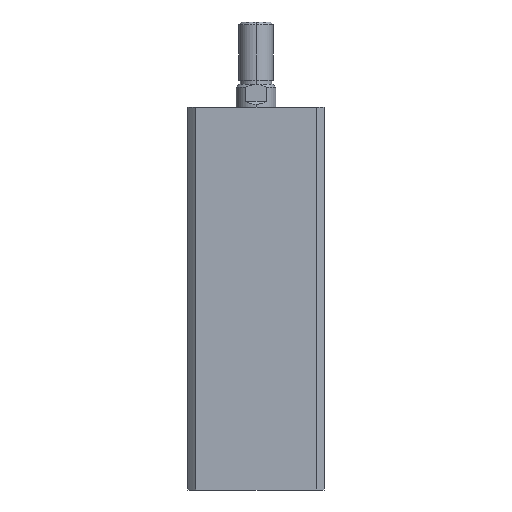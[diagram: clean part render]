
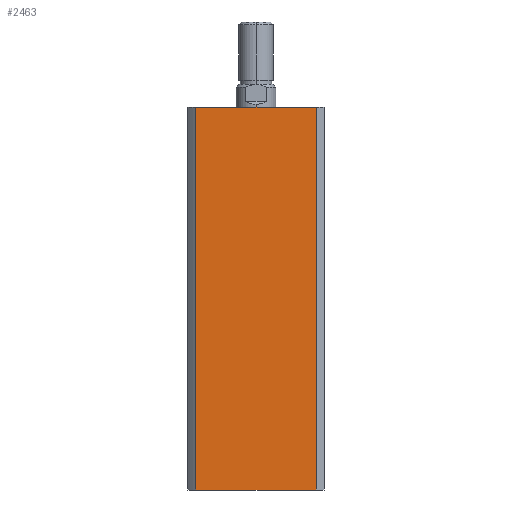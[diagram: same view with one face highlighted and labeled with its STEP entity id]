
A CAD part, left-side view. The second image highlights one B-rep face of the part: STEP entity #2463.
In plain terms, the highlighted planar face has unit normal (-1, 0, 0).
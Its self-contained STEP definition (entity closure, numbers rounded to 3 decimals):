
#87 = CARTESIAN_POINT ( 'NONE',  ( -24., -21.166, 0. ) ) ;
#241 = LINE ( 'NONE', #1045, #243 ) ;
#243 = VECTOR ( 'NONE', #1046, 1000. ) ;
#653 = DIRECTION ( 'NONE',  ( 0., 0., -1. ) ) ;
#656 = CARTESIAN_POINT ( 'NONE',  ( -24., -21.166, 135. ) ) ;
#657 = CARTESIAN_POINT ( 'NONE',  ( -24., 21.166, 135. ) ) ;
#661 = DIRECTION ( 'NONE',  ( 0., 0., -1. ) ) ;
#662 = CARTESIAN_POINT ( 'NONE',  ( -24., 0., 0. ) ) ;
#663 = DIRECTION ( 'NONE',  ( 0., -1., 0. ) ) ;
#1045 = CARTESIAN_POINT ( 'NONE',  ( -24., 0., 135. ) ) ;
#1046 = DIRECTION ( 'NONE',  ( 0., -1., 0. ) ) ;
#1480 = CARTESIAN_POINT ( 'NONE',  ( -24., 21.166, 0. ) ) ;
#1547 = CARTESIAN_POINT ( 'NONE',  ( -24., -21.166, 135. ) ) ;
#1592 = CARTESIAN_POINT ( 'NONE',  ( -24., 21.166, 135. ) ) ;
#1935 = FACE_OUTER_BOUND ( 'NONE', #5074, .T. ) ;
#2163 = LINE ( 'NONE', #657, #2169 ) ;
#2167 = LINE ( 'NONE', #656, #2171 ) ;
#2169 = VECTOR ( 'NONE', #653, 1000. ) ;
#2170 = LINE ( 'NONE', #662, #2173 ) ;
#2171 = VECTOR ( 'NONE', #661, 1000. ) ;
#2173 = VECTOR ( 'NONE', #663, 1000. ) ;
#2463 = ADVANCED_FACE ( 'NONE', ( #1935 ), #4044, .F. ) ;
#2780 = EDGE_CURVE ( 'NONE', #4964, #4852, #2163, .T. ) ;
#2781 = EDGE_CURVE ( 'NONE', #4919, #5031, #2167, .T. ) ;
#2782 = EDGE_CURVE ( 'NONE', #4852, #5031, #2170, .T. ) ;
#2866 = EDGE_CURVE ( 'NONE', #4964, #4919, #241, .T. ) ;
#3121 = AXIS2_PLACEMENT_3D ( 'NONE', #4040, #4046, #4047 ) ;
#4040 = CARTESIAN_POINT ( 'NONE',  ( -24., 0., 135. ) ) ;
#4044 = PLANE ( 'NONE',  #3121 ) ;
#4046 = DIRECTION ( 'NONE',  ( 1., 0., 0. ) ) ;
#4047 = DIRECTION ( 'NONE',  ( 0., 0., -1. ) ) ;
#4852 = VERTEX_POINT ( 'NONE', #1480 ) ;
#4919 = VERTEX_POINT ( 'NONE', #1547 ) ;
#4964 = VERTEX_POINT ( 'NONE', #1592 ) ;
#5031 = VERTEX_POINT ( 'NONE', #87 ) ;
#5074 = EDGE_LOOP ( 'NONE', ( #5168, #5165, #5164, #5162 ) ) ;
#5162 = ORIENTED_EDGE ( 'NONE', *, *, #2780, .T. ) ;
#5164 = ORIENTED_EDGE ( 'NONE', *, *, #2866, .F. ) ;
#5165 = ORIENTED_EDGE ( 'NONE', *, *, #2781, .F. ) ;
#5168 = ORIENTED_EDGE ( 'NONE', *, *, #2782, .T. ) ;
